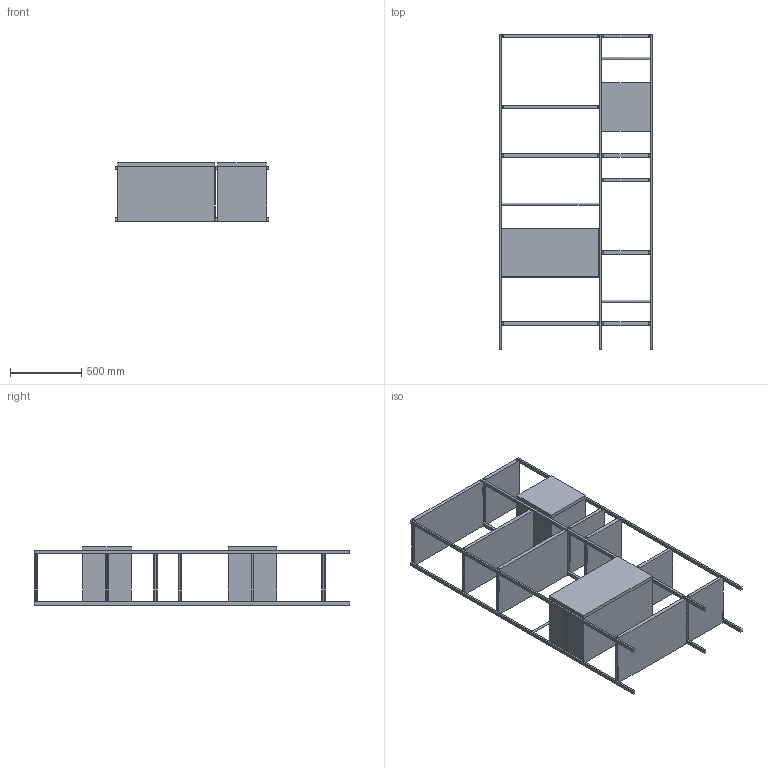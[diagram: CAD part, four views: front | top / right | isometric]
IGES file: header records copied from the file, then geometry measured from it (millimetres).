
Global section: file name: C:\Users\ComiIsacco\Desktop\outline A.igs; native system: Rhinoceros ( Mar  9 2011 ); preprocessor: Trout Lake IGES 012 Mar  9 2011; date: 200302.145206; units: millimetre
Bounding box: 1077 x 2210 x 410 mm (x, y, z)
Surface area: 9371160.6 mm2 (no closed solid volume)
Topology: 0 solids, 0 shells, 243 faces, 1250 edges, 1250 vertices
Faces by surface type: bspline 243
